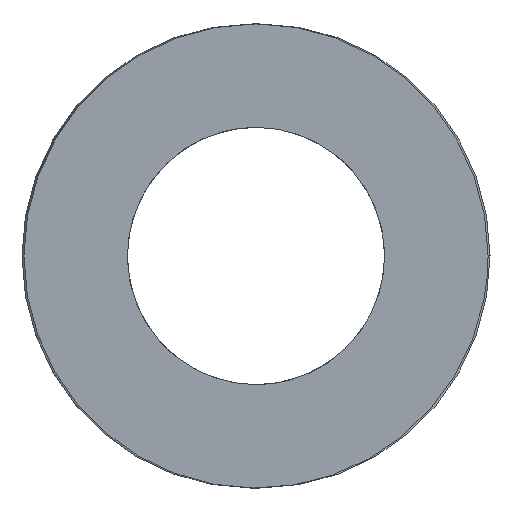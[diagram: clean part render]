
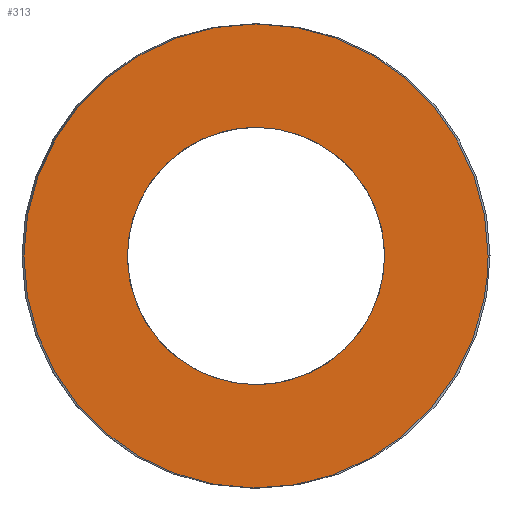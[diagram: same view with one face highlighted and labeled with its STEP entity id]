
A CAD part, left-side view. The second image highlights one B-rep face of the part: STEP entity #313.
In plain terms, the highlighted planar face has unit normal (-1, 0, 0).
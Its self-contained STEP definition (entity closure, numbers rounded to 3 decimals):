
#63=CARTESIAN_POINT('Vertex',(0.,9.2,0.)) ;
#89=CARTESIAN_POINT('Vertex',(0.,-9.2,0.)) ;
#93=CARTESIAN_POINT('Control Point',(0.,9.2,0.)) ;
#94=CARTESIAN_POINT('Control Point',(0.,9.2,-1.445)) ;
#95=CARTESIAN_POINT('Control Point',(0.,8.916,-2.89)) ;
#96=CARTESIAN_POINT('Control Point',(0.,8.348,-4.261)) ;
#97=CARTESIAN_POINT('Control Point',(0.,6.706,-6.706)) ;
#98=CARTESIAN_POINT('Control Point',(0.,4.261,-8.348)) ;
#99=CARTESIAN_POINT('Control Point',(0.,2.89,-8.916)) ;
#100=CARTESIAN_POINT('Control Point',(0.,0.,-9.484)) ;
#101=CARTESIAN_POINT('Control Point',(0.,-2.89,-8.916)) ;
#102=CARTESIAN_POINT('Control Point',(0.,-4.261,-8.348)) ;
#103=CARTESIAN_POINT('Control Point',(0.,-6.706,-6.706)) ;
#104=CARTESIAN_POINT('Control Point',(0.,-8.348,-4.261)) ;
#105=CARTESIAN_POINT('Control Point',(0.,-8.916,-2.89)) ;
#106=CARTESIAN_POINT('Control Point',(0.,-9.2,-1.445)) ;
#107=CARTESIAN_POINT('Control Point',(0.,-9.2,0.)) ;
#121=CARTESIAN_POINT('Axis2P3D Location',(0.,0.,0.)) ;
#250=CARTESIAN_POINT('Axis2P3D Location',(0.,4.6,0.)) ;
#260=CARTESIAN_POINT('Control Point',(0.,0.,-5.1)) ;
#261=CARTESIAN_POINT('Control Point',(0.,0.553,-5.1)) ;
#262=CARTESIAN_POINT('Control Point',(0.,1.106,-5.025)) ;
#263=CARTESIAN_POINT('Control Point',(0.,1.646,-4.875)) ;
#264=CARTESIAN_POINT('Control Point',(0.,2.671,-4.432)) ;
#265=CARTESIAN_POINT('Control Point',(0.,3.541,-3.733)) ;
#266=CARTESIAN_POINT('Control Point',(0.,3.926,-3.326)) ;
#267=CARTESIAN_POINT('Control Point',(0.,4.575,-2.418)) ;
#268=CARTESIAN_POINT('Control Point',(0.,4.96,-1.37)) ;
#269=CARTESIAN_POINT('Control Point',(0.,5.079,-0.822)) ;
#270=CARTESIAN_POINT('Control Point',(0.,5.167,0.291)) ;
#271=CARTESIAN_POINT('Control Point',(0.,4.955,1.387)) ;
#272=CARTESIAN_POINT('Control Point',(0.,4.775,1.917)) ;
#273=CARTESIAN_POINT('Control Point',(0.,4.275,2.916)) ;
#274=CARTESIAN_POINT('Control Point',(0.,3.528,3.745)) ;
#275=CARTESIAN_POINT('Control Point',(0.,3.1,4.106)) ;
#276=CARTESIAN_POINT('Control Point',(0.,2.255,4.642)) ;
#277=CARTESIAN_POINT('Control Point',(0.,1.309,4.959)) ;
#278=CARTESIAN_POINT('Control Point',(0.,0.877,5.053)) ;
#279=CARTESIAN_POINT('Control Point',(0.,0.439,5.1)) ;
#280=CARTESIAN_POINT('Control Point',(0.,0.,5.1)) ;
#281=CARTESIAN_POINT('Vertex',(0.,0.,-5.1)) ;
#283=CARTESIAN_POINT('Vertex',(0.,0.,5.1)) ;
#287=CARTESIAN_POINT('Control Point',(0.,0.,5.1)) ;
#288=CARTESIAN_POINT('Control Point',(0.,-0.553,5.1)) ;
#289=CARTESIAN_POINT('Control Point',(0.,-1.106,5.025)) ;
#290=CARTESIAN_POINT('Control Point',(0.,-1.646,4.875)) ;
#291=CARTESIAN_POINT('Control Point',(0.,-2.671,4.432)) ;
#292=CARTESIAN_POINT('Control Point',(0.,-3.541,3.733)) ;
#293=CARTESIAN_POINT('Control Point',(0.,-3.926,3.326)) ;
#294=CARTESIAN_POINT('Control Point',(0.,-4.575,2.418)) ;
#295=CARTESIAN_POINT('Control Point',(0.,-4.96,1.37)) ;
#296=CARTESIAN_POINT('Control Point',(0.,-5.079,0.822)) ;
#297=CARTESIAN_POINT('Control Point',(0.,-5.167,-0.291)) ;
#298=CARTESIAN_POINT('Control Point',(0.,-4.955,-1.387)) ;
#299=CARTESIAN_POINT('Control Point',(0.,-4.775,-1.917)) ;
#300=CARTESIAN_POINT('Control Point',(0.,-4.275,-2.916)) ;
#301=CARTESIAN_POINT('Control Point',(0.,-3.528,-3.745)) ;
#302=CARTESIAN_POINT('Control Point',(0.,-3.1,-4.106)) ;
#303=CARTESIAN_POINT('Control Point',(0.,-2.255,-4.642)) ;
#304=CARTESIAN_POINT('Control Point',(0.,-1.309,-4.959)) ;
#305=CARTESIAN_POINT('Control Point',(0.,-0.877,-5.053)) ;
#306=CARTESIAN_POINT('Control Point',(0.,-0.439,-5.1)) ;
#307=CARTESIAN_POINT('Control Point',(0.,0.,-5.1)) ;
#122=DIRECTION('Axis2P3D Direction',(1.,-0.,0.)) ;
#251=DIRECTION('Axis2P3D Direction',(-1.,0.,0.)) ;
#252=DIRECTION('Axis2P3D XDirection',(0.,1.,0.)) ;
#123=AXIS2_PLACEMENT_3D('Circle Axis2P3D',#121,#122,$) ;
#253=AXIS2_PLACEMENT_3D('Plane Axis2P3D',#250,#251,#252) ;
#256=ORIENTED_EDGE('',*,*,#108,.T.) ;
#257=ORIENTED_EDGE('',*,*,#125,.T.) ;
#310=ORIENTED_EDGE('',*,*,#285,.T.) ;
#311=ORIENTED_EDGE('',*,*,#308,.T.) ;
#312=FACE_BOUND('',#309,.T.) ;
#313=ADVANCED_FACE('392-B20-064',(#258,#312),#254,.T.) ;
#92=B_SPLINE_CURVE_WITH_KNOTS('',5,(#93,#94,#95,#96,#97,#98,#99,#100,#101,#102,#103,#104,#105,#106,#107),.UNSPECIFIED.,.F.,.U.,(6,3,3,3,6),(-14.451,-7.226,0.,7.226,14.451),.UNSPECIFIED.) ;
#259=B_SPLINE_CURVE_WITH_KNOTS('',5,(#260,#261,#262,#263,#264,#265,#266,#267,#268,#269,#270,#271,#272,#273,#274,#275,#276,#277,#278,#279,#280),.UNSPECIFIED.,.F.,.U.,(6,3,3,3,3,3,6),(0.,3.911,7.823,11.734,15.646,19.557,22.658),.UNSPECIFIED.) ;
#286=B_SPLINE_CURVE_WITH_KNOTS('',5,(#287,#288,#289,#290,#291,#292,#293,#294,#295,#296,#297,#298,#299,#300,#301,#302,#303,#304,#305,#306,#307),.UNSPECIFIED.,.F.,.U.,(6,3,3,3,3,3,6),(0.,3.911,7.823,11.734,15.646,19.557,22.658),.UNSPECIFIED.) ;
#124=CIRCLE('generated circle',#123,9.2) ;
#108=EDGE_CURVE('',#64,#90,#92,.T.) ;
#125=EDGE_CURVE('',#90,#64,#124,.F.) ;
#285=EDGE_CURVE('',#282,#284,#259,.T.) ;
#308=EDGE_CURVE('',#284,#282,#286,.T.) ;
#255=EDGE_LOOP('',(#256,#257)) ;
#309=EDGE_LOOP('',(#310,#311)) ;
#258=FACE_OUTER_BOUND('',#255,.T.) ;
#254=PLANE('Plane',#253) ;
#64=VERTEX_POINT('',#63) ;
#90=VERTEX_POINT('',#89) ;
#282=VERTEX_POINT('',#281) ;
#284=VERTEX_POINT('',#283) ;
